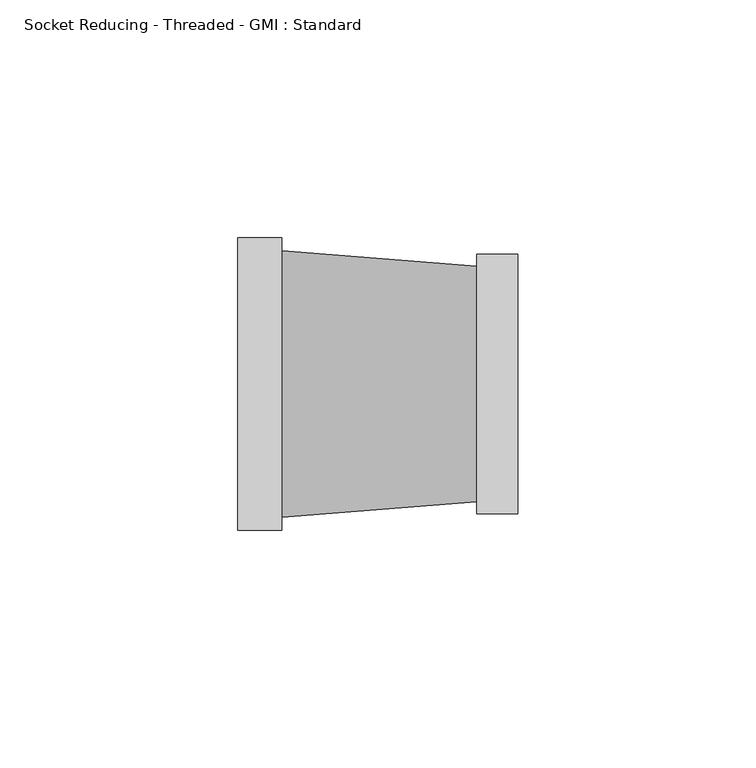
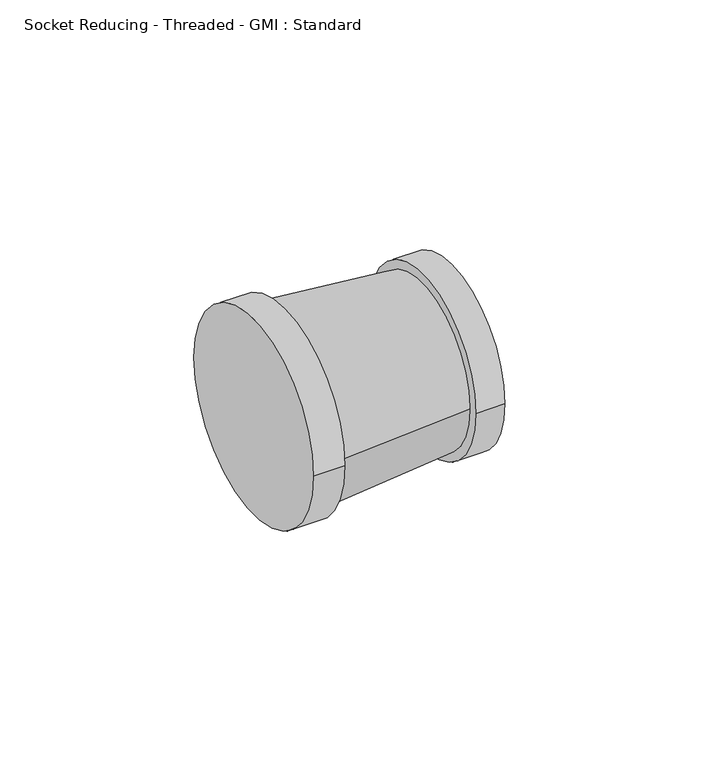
"""IFC4 building model written with IfcOpenShell, lengths in millimetres: pipe fitting geometry, Socket Reducing - Threaded - GMI : Standard."""

from ifc_helpers import new_model, si_unit, point, frame, origin, origin_2d, place, context, project, spatial, polyline, circle_curve, trimmed, segment, composite_curve, outline, extrude, source, transform, mapped, element, save
from ifc_brep_helpers import plane_surface, revolved_surface, advanced_brep


def socket_reducing_threaded_gmi_standard_7a3748ab(model_context):
    return source(origin(), model_context, "Body", "SolidModel", [
        extrude(outline(composite_curve([segment(trimmed(circle_curve(origin_2d(), 27.35), [point((-27.35, 0.0))], [point((27.35, 0.0))], False, "CARTESIAN"), True, "CONTINUOUS"), segment(trimmed(circle_curve(origin_2d(), 27.35), [point((27.35, 0.0))], [point((-27.35, 0.0))], False, "CARTESIAN"), True, "CONTINUOUS")], self_intersect=False)), frame((50.3, 0.0, 0.0), z_axis=(1.0, 0.0, 0.0), x_axis=(0.0, 1.0, 0.0)), (0.0, 0.0, 1.0), 8.7),
        advanced_brep(
        [(50.3, -24.78, 0.0), (50.3, 24.78, 0.0), (9.3, -28.09, 0.0), (9.3, 28.09, 0.0)],
        [
            (0, 1, circle_curve(frame((50.3, 0.0, 0.0), z_axis=(1.0, 0.0, 0.0), x_axis=(0.0, -1.0, 0.0)), 24.78)),
            (1, 0, circle_curve(frame((50.3, 0.0, 0.0), z_axis=(1.0, 0.0, 0.0), x_axis=(0.0, 1.0, 0.0)), 24.78)),
            (2, 3, circle_curve(frame((9.3, 0.0, 0.0), z_axis=(-1.0, 0.0, 0.0), x_axis=(0.0, 1.0, 0.0)), 28.09)),
            (3, 2, circle_curve(frame((9.3, 0.0, 0.0), z_axis=(-1.0, 0.0, 0.0), x_axis=(0.0, -1.0, 0.0)), 28.09)),
            (3, 1),
            (0, 2),
        ],
        [
            plane_surface(frame((50.3, 0.0, 0.0), z_axis=(1.0, 0.0, 0.0), x_axis=(0.0, 0.0, -1.0))),
            plane_surface(frame((9.3, 0.0, 0.0), z_axis=(-1.0, 0.0, 0.0), x_axis=(0.0, 0.0, -1.0))),
            revolved_surface(polyline([(50.30000000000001, -24.780000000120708, 0.0), (9.300000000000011, -28.09, 0.0)]), (357.2425982, 0.0, 0.0), (-1.0, 0.0, 0.0)),
            revolved_surface(polyline([(50.30000000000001, 24.780000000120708, 0.0), (9.300000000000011, 28.09, 0.0)]), (357.2425982, 0.0, 0.0), (-1.0, 0.0, 0.0)),
        ],
        [
            (0, [[1, 2]]),
            (1, [[3, 4]]),
            (2, [[-4, 5, -1, 6]]),
            (3, [[-3, -6, -2, -5]]),
        ],
    ),
        extrude(outline(composite_curve([segment(trimmed(circle_curve(origin_2d(), 30.8), [point((-30.8, 0.0))], [point((30.8, 0.0))], False, "CARTESIAN"), True, "CONTINUOUS"), segment(trimmed(circle_curve(origin_2d(), 30.8), [point((30.8, 0.0))], [point((-30.8, 0.0))], False, "CARTESIAN"), True, "CONTINUOUS")], self_intersect=False)), frame((0.0, 0.0, 0.0), z_axis=(1.0, 0.0, 0.0), x_axis=(0.0, 1.0, 0.0)), (0.0, 0.0, 1.0), 9.3),
    ])


if __name__ == "__main__":
    model = new_model("IFC4")
    model_context = context("Model", 3, world=origin())
    ifc_project = project(units=[si_unit("LENGTHUNIT", "METRE", prefix="MILLI")], contexts=[model_context])
    site = spatial("IfcSite", under=ifc_project)
    building = spatial("IfcBuilding", under=site)
    placement = place(None, origin())
    socket_reducing_threaded_gmi_standard_shape = socket_reducing_threaded_gmi_standard_7a3748ab(model_context)
    element("IfcPipeFitting", 1, ObjectType="Socket Reducing - Threaded - GMI : Standard", at=placement, inside=building, context=model_context, shape_type="MappedRepresentation", body=[
        mapped(socket_reducing_threaded_gmi_standard_shape, transform((0.0, 0.0, 0.0), x_axis=(1.0, 0.0, 0.0), y_axis=(0.0, 1.0, 0.0), z_axis=(0.0, 0.0, 1.0))),
    ])
    save(model, "model.ifc")
